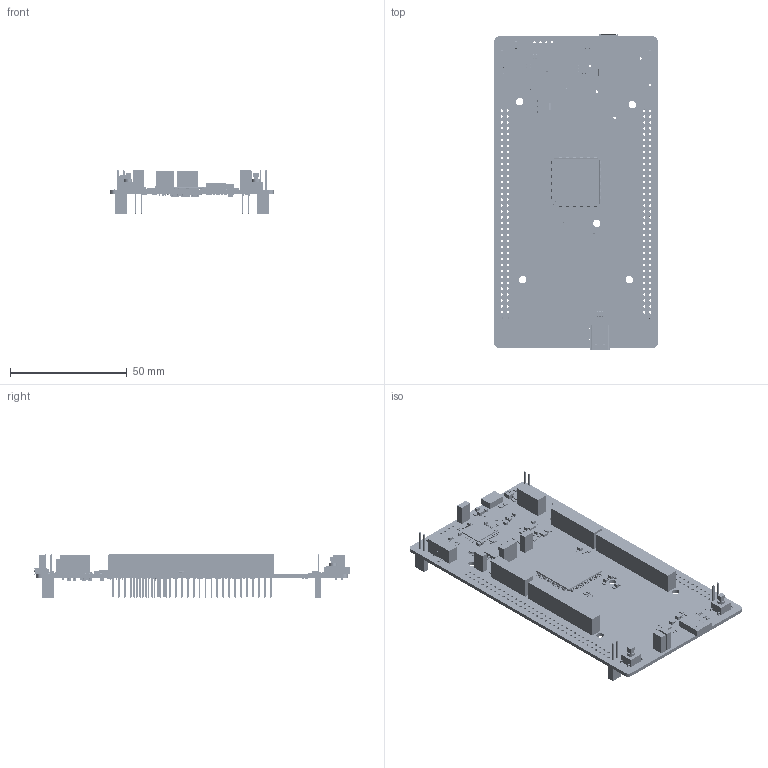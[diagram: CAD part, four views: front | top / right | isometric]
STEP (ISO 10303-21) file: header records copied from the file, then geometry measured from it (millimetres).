
FILE_DESCRIPTION(('Open CASCADE Model'),'2;1');
FILE_NAME('Open CASCADE Shape Model','2023-07-12T15:05:58',('Author'),( 'Open CASCADE'),'Open CASCADE STEP processor 7.5','Open CASCADE 7.5' ,'Unknown');
FILE_SCHEMA(('AUTOMOTIVE_DESIGN { 1 0 10303 214 1 1 1 1 }'));
Length unit declared in the file: millimetre
Products named in the file (489): PCB; Board; Open CASCADE STEP translator 7.5 1.1.1; SB46; R0603; 6968448240; Extruded; SB45; 6968757648; JP7; TSW-102-07-G-S; _TSW-102-07-G-S_body; _T-1S6-07-TSW-1-07-2-S; 6968763968; JP8; C78; C0402; 6968760368; C63; 6970004752; C62; C47; SB53; Q2; 6970004112; 6970003392; 6970003232; 6970002912; Cylinder; R50; 6968756848; R46; R51; R47; Q4; SOT23-3_TO-236AB; 6968755168; Q5; R30; C69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
Assembly tree (1115 placements, depth 4):
  PCB
    Board
      Open CASCADE STEP translator 7.5 1.1.1
    SB46
      R0603
      6968448240
        Extruded
    SB45
      R0603
      6968757648
        Extruded
    JP7
      TSW-102-07-G-S
        _TSW-102-07-G-S_body
        _T-1S6-07-TSW-1-07-2-S
      6968763968
        Extruded
    JP8
      TSW-102-07-G-S
        _TSW-102-07-G-S_body
        _T-1S6-07-TSW-1-07-2-S
      6968763968
        Extruded
    C78
      C0402
      6968760368
        Extruded
    C63
      C0402
      6970004752
        Extruded
    C62
      C0402
      6970004752
        Extruded
    C47
      C0402
      6970004752
        Extruded
    SB53
      R0603
      6968757648
        Extruded
    Q2
      6970004112  x8
        Extruded
      6970003392  x2
        Extruded
      6970003232
        Extruded
      6970002912
        Cylinder
    R50
      R0603
      6968756848
        Extruded
    R46
      R0603
      6968756848
        Extruded
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Bounding box: 70 x 135.43 x 18.57 mm (x, y, z)
Volume: 29842.6 mm3; surface area: 46256.5 mm2
Topology: 1060 solids, 1971 shells, 31447 faces, 78385 edges, 49557 vertices
Faces by surface type: plane 17168, cylinder 6275, bspline 6003, sphere 1331, revolution 464, torus 204, cone 2
Full cylindrical faces by diameter (mm): 0.2 x1, 0.26 x1, 0.3 x1, 0.4 x23, 0.5 x1, 0.8 x1, 0.9 x2, 0.97 x2, 1 x180, 1.1 x100, 1.19 x2, 1.5 x2, 3.2 x5, 3.4 x2
Entity records: 381534 total; most frequent: CARTESIAN_POINT 80146, ORIENTED_EDGE 51379, DIRECTION 50384, EDGE_CURVE 26371, LINE 22032, VECTOR 22032, VERTEX_POINT 17466, AXIS2_PLACEMENT_3D 14172
